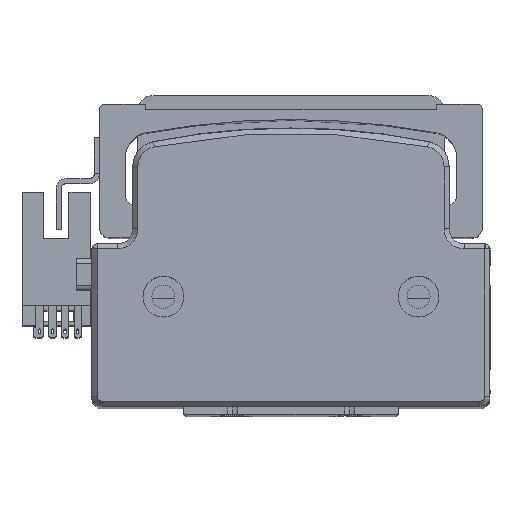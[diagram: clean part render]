
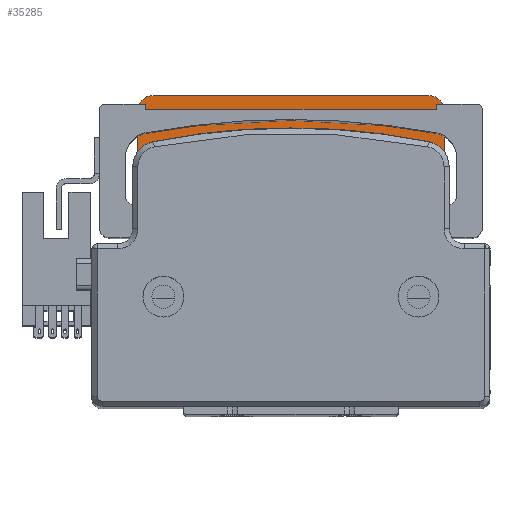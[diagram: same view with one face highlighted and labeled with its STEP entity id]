
A CAD part, top view. The second image highlights one B-rep face of the part: STEP entity #35285.
In plain terms, the highlighted planar face has unit normal (0, 0, 1) as drawn and (0, 0, -1) by its records, which use the part's own axes.
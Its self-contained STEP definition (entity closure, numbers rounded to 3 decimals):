
#423 = EDGE_CURVE ( 'NONE', #3668, #24999, #25231, .T. ) ;
#697 = VERTEX_POINT ( 'NONE', #35913 ) ;
#717 = CIRCLE ( 'NONE', #32787, 1.65 ) ;
#1113 = CARTESIAN_POINT ( 'NONE',  ( 27., 27., 44. ) ) ;
#1548 = CARTESIAN_POINT ( 'NONE',  ( -19., 0., 44. ) ) ;
#2561 = CARTESIAN_POINT ( 'NONE',  ( 24.749, 24.749, 44. ) ) ;
#3668 = VERTEX_POINT ( 'NONE', #4620 ) ;
#3715 = CARTESIAN_POINT ( 'NONE',  ( 30., 14., 44. ) ) ;
#3760 = AXIS2_PLACEMENT_3D ( 'NONE', #31656, #10841, #35128 ) ;
#4440 = CARTESIAN_POINT ( 'NONE',  ( 19., 17., 44. ) ) ;
#4589 = DIRECTION ( 'NONE',  ( 1., 0., 0. ) ) ;
#4620 = CARTESIAN_POINT ( 'NONE',  ( -30., 27., 44. ) ) ;
#4778 = CIRCLE ( 'NONE', #25574, 3. ) ;
#5042 = CIRCLE ( 'NONE', #22639, 3. ) ;
#5544 = DIRECTION ( 'NONE',  ( 1., 0., 0. ) ) ;
#5600 = CARTESIAN_POINT ( 'NONE',  ( -19., 30., 44. ) ) ;
#5694 = VERTEX_POINT ( 'NONE', #26461 ) ;
#6022 = DIRECTION ( 'NONE',  ( 0., 0., -1. ) ) ;
#6114 = DIRECTION ( 'NONE',  ( 1., 0., 0. ) ) ;
#6203 = CARTESIAN_POINT ( 'NONE',  ( -27., 27., 44. ) ) ;
#6467 = EDGE_CURVE ( 'NONE', #3668, #13592, #41343, .T. ) ;
#6666 = ORIENTED_EDGE ( 'NONE', *, *, #12622, .F. ) ;
#6974 = CARTESIAN_POINT ( 'NONE',  ( 23.099, 24.749, 44. ) ) ;
#7368 = CARTESIAN_POINT ( 'NONE',  ( 30., -30., 44. ) ) ;
#7487 = VERTEX_POINT ( 'NONE', #4440 ) ;
#7936 = VECTOR ( 'NONE', #9661, 1000. ) ;
#8144 = DIRECTION ( 'NONE',  ( 0., 0., 1. ) ) ;
#8282 = CARTESIAN_POINT ( 'NONE',  ( 19., -30., 44. ) ) ;
#9376 = CARTESIAN_POINT ( 'NONE',  ( -19., 17., 44. ) ) ;
#9473 = DIRECTION ( 'NONE',  ( 0., -1., 0. ) ) ;
#9656 = VERTEX_POINT ( 'NONE', #26662 ) ;
#9661 = DIRECTION ( 'NONE',  ( 1., 0., 0. ) ) ;
#9681 = DIRECTION ( 'NONE',  ( 1., 0., 0. ) ) ;
#9702 = ORIENTED_EDGE ( 'NONE', *, *, #41195, .T. ) ;
#9943 = VECTOR ( 'NONE', #22221, 1000. ) ;
#10462 = EDGE_CURVE ( 'NONE', #27056, #44295, #28014, .T. ) ;
#10841 = DIRECTION ( 'NONE',  ( 0., 0., -1. ) ) ;
#10870 = LINE ( 'NONE', #5600, #30448 ) ;
#11750 = VERTEX_POINT ( 'NONE', #1548 ) ;
#11802 = DIRECTION ( 'NONE',  ( -1., 0., 0. ) ) ;
#11957 = CARTESIAN_POINT ( 'NONE',  ( 19., 30., 44. ) ) ;
#12033 = EDGE_CURVE ( 'NONE', #697, #42075, #15269, .T. ) ;
#12306 = CARTESIAN_POINT ( 'NONE',  ( -27., 14., 44. ) ) ;
#12313 = EDGE_LOOP ( 'NONE', ( #16160, #26244 ) ) ;
#12622 = EDGE_CURVE ( 'NONE', #37990, #40844, #42304, .T. ) ;
#13524 = ORIENTED_EDGE ( 'NONE', *, *, #30564, .T. ) ;
#13592 = VERTEX_POINT ( 'NONE', #15700 ) ;
#14854 = FACE_OUTER_BOUND ( 'NONE', #22121, .T. ) ;
#15269 = CIRCLE ( 'NONE', #3760, 1.65 ) ;
#15700 = CARTESIAN_POINT ( 'NONE',  ( -30., 14., 44. ) ) ;
#15814 = DIRECTION ( 'NONE',  ( -1., 0., 0. ) ) ;
#16160 = ORIENTED_EDGE ( 'NONE', *, *, #12033, .F. ) ;
#16341 = CARTESIAN_POINT ( 'NONE',  ( -24.749, 24.749, 44. ) ) ;
#16688 = ORIENTED_EDGE ( 'NONE', *, *, #423, .T. ) ;
#17063 = EDGE_CURVE ( 'NONE', #37990, #13592, #4778, .T. ) ;
#17506 = VERTEX_POINT ( 'NONE', #28949 ) ;
#17583 = AXIS2_PLACEMENT_3D ( 'NONE', #1113, #25443, #4589 ) ;
#17751 = CIRCLE ( 'NONE', #17583, 3. ) ;
#18593 = DIRECTION ( 'NONE',  ( 0., 0., 1. ) ) ;
#18750 = CARTESIAN_POINT ( 'NONE',  ( -39.764, 17., 44. ) ) ;
#18931 = CARTESIAN_POINT ( 'NONE',  ( -26.399, 24.749, 44. ) ) ;
#19312 = CIRCLE ( 'NONE', #23723, 19. ) ;
#19856 = DIRECTION ( 'NONE',  ( 1., 0., 0. ) ) ;
#20303 = AXIS2_PLACEMENT_3D ( 'NONE', #8282, #32595, #11802 ) ;
#20856 = VECTOR ( 'NONE', #36399, 1000. ) ;
#21682 = ORIENTED_EDGE ( 'NONE', *, *, #36423, .F. ) ;
#21797 = VECTOR ( 'NONE', #9473, 1000. ) ;
#22121 = EDGE_LOOP ( 'NONE', ( #25958, #6666, #37047, #36362, #16688, #28778, #9702, #21682, #13524, #32786, #40137, #22751 ) ) ;
#22221 = DIRECTION ( 'NONE',  ( 1., 0., 0. ) ) ;
#22639 = AXIS2_PLACEMENT_3D ( 'NONE', #39375, #18593, #42832 ) ;
#22751 = ORIENTED_EDGE ( 'NONE', *, *, #42208, .T. ) ;
#23058 = CARTESIAN_POINT ( 'NONE',  ( -39.764, 17., 44. ) ) ;
#23505 = ORIENTED_EDGE ( 'NONE', *, *, #10462, .F. ) ;
#23610 = CARTESIAN_POINT ( 'NONE',  ( 27., 17., 44. ) ) ;
#23723 = AXIS2_PLACEMENT_3D ( 'NONE', #28995, #8144, #32473 ) ;
#24072 = FACE_BOUND ( 'NONE', #31172, .T. ) ;
#24140 = AXIS2_PLACEMENT_3D ( 'NONE', #26855, #6022, #30343 ) ;
#24541 = DIRECTION ( 'NONE',  ( 0., 1., 0. ) ) ;
#24999 = VERTEX_POINT ( 'NONE', #29142 ) ;
#25168 = EDGE_CURVE ( 'NONE', #24999, #5694, #35654, .T. ) ;
#25231 = CIRCLE ( 'NONE', #33649, 3. ) ;
#25249 = VECTOR ( 'NONE', #24541, 1000. ) ;
#25443 = DIRECTION ( 'NONE',  ( 0., 0., -1. ) ) ;
#25574 = AXIS2_PLACEMENT_3D ( 'NONE', #12306, #36602, #15814 ) ;
#25648 = EDGE_CURVE ( 'NONE', #44295, #27056, #35044, .T. ) ;
#25958 = ORIENTED_EDGE ( 'NONE', *, *, #31866, .T. ) ;
#26244 = ORIENTED_EDGE ( 'NONE', *, *, #36820, .F. ) ;
#26461 = CARTESIAN_POINT ( 'NONE',  ( 27., 30., 44. ) ) ;
#26662 = CARTESIAN_POINT ( 'NONE',  ( 19., 0., 44. ) ) ;
#26855 = CARTESIAN_POINT ( 'NONE',  ( -24.749, 24.749, 44. ) ) ;
#26943 = DIRECTION ( 'NONE',  ( 0., 0., -1. ) ) ;
#27056 = VERTEX_POINT ( 'NONE', #34994 ) ;
#27746 = AXIS2_PLACEMENT_3D ( 'NONE', #16341, #40601, #19856 ) ;
#28014 = CIRCLE ( 'NONE', #24140, 1.65 ) ;
#28778 = ORIENTED_EDGE ( 'NONE', *, *, #25168, .T. ) ;
#28949 = CARTESIAN_POINT ( 'NONE',  ( 30., 27., 44. ) ) ;
#28995 = CARTESIAN_POINT ( 'NONE',  ( 0., 0., 44. ) ) ;
#29142 = CARTESIAN_POINT ( 'NONE',  ( -27., 30., 44. ) ) ;
#30051 = LINE ( 'NONE', #11957, #20856 ) ;
#30314 = CARTESIAN_POINT ( 'NONE',  ( -30., -30., 44. ) ) ;
#30343 = DIRECTION ( 'NONE',  ( 1., 0., 0. ) ) ;
#30448 = VECTOR ( 'NONE', #43869, 1000. ) ;
#30506 = DIRECTION ( 'NONE',  ( 0., 0., -1. ) ) ;
#30564 = EDGE_CURVE ( 'NONE', #39576, #32731, #5042, .T. ) ;
#30627 = EDGE_CURVE ( 'NONE', #7487, #32731, #37697, .T. ) ;
#31172 = EDGE_LOOP ( 'NONE', ( #23505, #32515 ) ) ;
#31656 = CARTESIAN_POINT ( 'NONE',  ( 24.749, 24.749, 44. ) ) ;
#31866 = EDGE_CURVE ( 'NONE', #11750, #40844, #10870, .T. ) ;
#32473 = DIRECTION ( 'NONE',  ( -1., 0., 0. ) ) ;
#32515 = ORIENTED_EDGE ( 'NONE', *, *, #25648, .F. ) ;
#32595 = DIRECTION ( 'NONE',  ( 0., 0., -1. ) ) ;
#32731 = VERTEX_POINT ( 'NONE', #23610 ) ;
#32786 = ORIENTED_EDGE ( 'NONE', *, *, #30627, .F. ) ;
#32787 = AXIS2_PLACEMENT_3D ( 'NONE', #2561, #26943, #6114 ) ;
#33063 = VECTOR ( 'NONE', #5544, 1000. ) ;
#33649 = AXIS2_PLACEMENT_3D ( 'NONE', #6203, #30506, #9681 ) ;
#34994 = CARTESIAN_POINT ( 'NONE',  ( -23.099, 24.749, 44. ) ) ;
#35044 = CIRCLE ( 'NONE', #27746, 1.65 ) ;
#35128 = DIRECTION ( 'NONE',  ( 1., 0., 0. ) ) ;
#35285 = ADVANCED_FACE ( 'NONE', ( #14854, #24072, #41460 ), #35629, .T. ) ;
#35327 = EDGE_CURVE ( 'NONE', #7487, #9656, #30051, .T. ) ;
#35629 = PLANE ( 'NONE',  #20303 ) ;
#35654 = LINE ( 'NONE', #44288, #7936 ) ;
#35913 = CARTESIAN_POINT ( 'NONE',  ( 26.399, 24.749, 44. ) ) ;
#36362 = ORIENTED_EDGE ( 'NONE', *, *, #6467, .F. ) ;
#36399 = DIRECTION ( 'NONE',  ( 0., -1., 0. ) ) ;
#36423 = EDGE_CURVE ( 'NONE', #39576, #17506, #36697, .T. ) ;
#36602 = DIRECTION ( 'NONE',  ( 0., 0., 1. ) ) ;
#36697 = LINE ( 'NONE', #7368, #25249 ) ;
#36820 = EDGE_CURVE ( 'NONE', #42075, #697, #717, .T. ) ;
#37047 = ORIENTED_EDGE ( 'NONE', *, *, #17063, .T. ) ;
#37222 = CARTESIAN_POINT ( 'NONE',  ( -27., 17., 44. ) ) ;
#37697 = LINE ( 'NONE', #18750, #9943 ) ;
#37990 = VERTEX_POINT ( 'NONE', #37222 ) ;
#39375 = CARTESIAN_POINT ( 'NONE',  ( 27., 14., 44. ) ) ;
#39576 = VERTEX_POINT ( 'NONE', #3715 ) ;
#40137 = ORIENTED_EDGE ( 'NONE', *, *, #35327, .T. ) ;
#40601 = DIRECTION ( 'NONE',  ( 0., 0., -1. ) ) ;
#40844 = VERTEX_POINT ( 'NONE', #9376 ) ;
#41195 = EDGE_CURVE ( 'NONE', #5694, #17506, #17751, .T. ) ;
#41343 = LINE ( 'NONE', #30314, #21797 ) ;
#41460 = FACE_BOUND ( 'NONE', #12313, .T. ) ;
#42075 = VERTEX_POINT ( 'NONE', #6974 ) ;
#42208 = EDGE_CURVE ( 'NONE', #9656, #11750, #19312, .T. ) ;
#42304 = LINE ( 'NONE', #23058, #33063 ) ;
#42832 = DIRECTION ( 'NONE',  ( -1., 0., 0. ) ) ;
#43869 = DIRECTION ( 'NONE',  ( 0., 1., 0. ) ) ;
#44288 = CARTESIAN_POINT ( 'NONE',  ( 19., 30., 44. ) ) ;
#44295 = VERTEX_POINT ( 'NONE', #18931 ) ;
